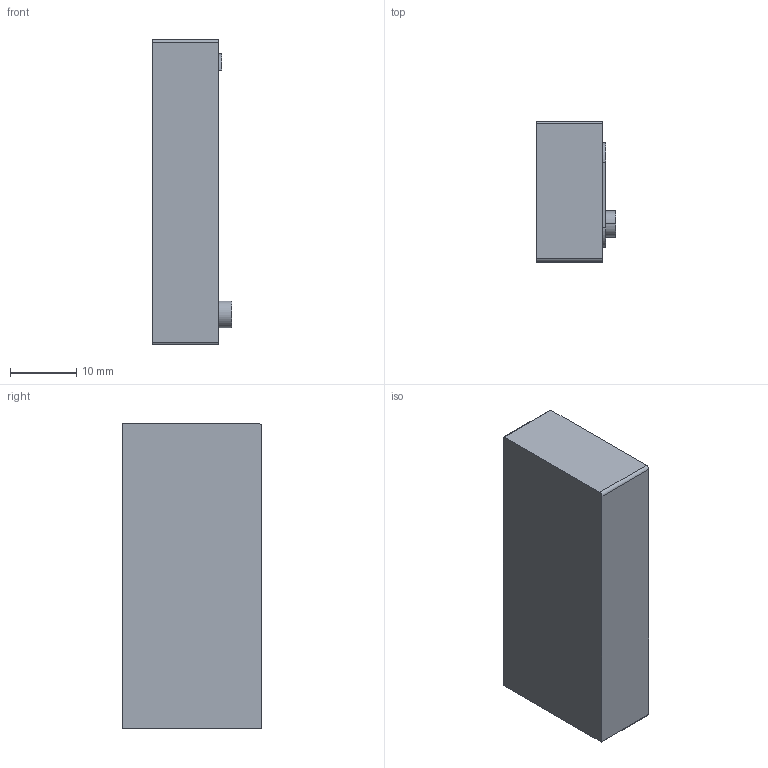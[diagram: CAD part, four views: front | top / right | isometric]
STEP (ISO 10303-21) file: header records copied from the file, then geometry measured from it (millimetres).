
FILE_DESCRIPTION( ( '' ), '1' );
FILE_NAME( 'D:/temp/hettich_stp/hettich/prodecor_handles/prodecor_accessories/collers_sleeves/115028.stp', '2013-02-26T12:53:41', ( '' ), ( '' ), ' ', ' ', ' ' );
FILE_SCHEMA( ( 'automotive_design' ) );
Length unit declared in the file: millimetre
Products named in the file (1): 1
Bounding box: 12 x 21.1 x 46 mm (x, y, z)
Volume: 9738.7 mm3; surface area: 3321.2 mm2
Topology: 1 solids, 1 shells, 22 faces, 54 edges, 36 vertices
Faces by surface type: plane 12, cylinder 10
Entity records: 1308 total; most frequent: DIRECTION 120, STYLED_ITEM 113, PRESENTATION_STYLE_ASSIGNMENT 113, CARTESIAN_POINT 113, COLOUR_RGB 113, ORIENTED_EDGE 108, EDGE_CURVE 54, CURVE_STYLE 54
